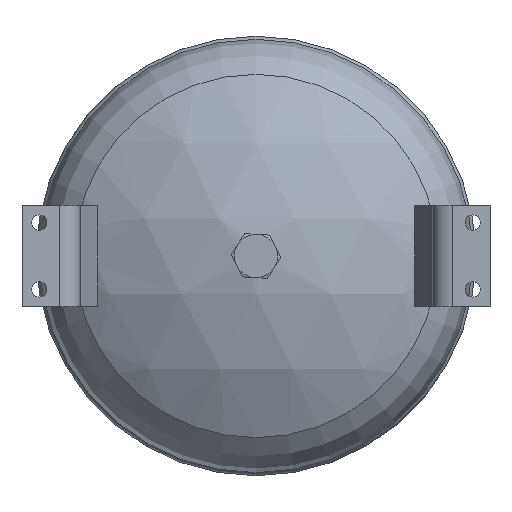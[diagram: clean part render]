
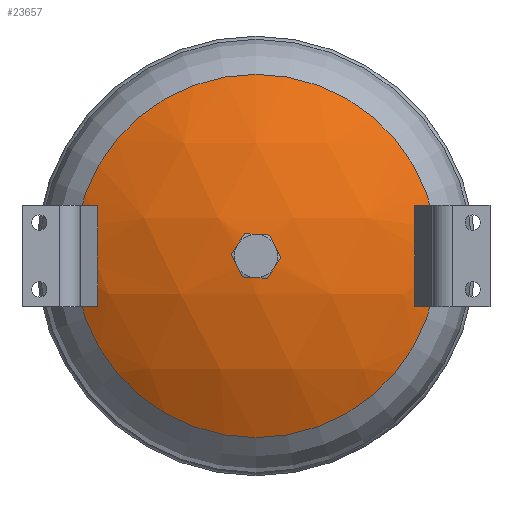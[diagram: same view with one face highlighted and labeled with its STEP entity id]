
A CAD part, front view. The second image highlights one B-rep face of the part: STEP entity #23657.
In plain terms, the highlighted spherical face has radius 244 mm.
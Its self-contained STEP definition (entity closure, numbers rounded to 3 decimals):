
#62=SPHERICAL_SURFACE('',#25314,244.);
#3997=FACE_BOUND('',#8151,.T.);
#3998=FACE_BOUND('',#8152,.T.);
#3999=FACE_BOUND('',#8153,.T.);
#6724=FACE_OUTER_BOUND('',#8150,.T.);
#8150=EDGE_LOOP('',(#21122));
#8151=EDGE_LOOP('',(#21123,#21124,#21125,#21126));
#8152=EDGE_LOOP('',(#21127,#21128,#21129,#21130));
#8153=EDGE_LOOP('',(#21131));
#8711=CIRCLE('',#25315,125.773);
#8712=CIRCLE('',#25316,243.161);
#8713=CIRCLE('',#25317,29.537);
#8714=CIRCLE('',#25318,242.363);
#8715=CIRCLE('',#25319,29.537);
#8716=CIRCLE('',#25320,243.161);
#8717=CIRCLE('',#25321,29.537);
#8718=CIRCLE('',#25322,242.363);
#8719=CIRCLE('',#25323,29.537);
#8720=CIRCLE('',#25324,10.);
#10948=VERTEX_POINT('',#50433);
#10949=VERTEX_POINT('',#50435);
#10950=VERTEX_POINT('',#50436);
#10951=VERTEX_POINT('',#50438);
#10952=VERTEX_POINT('',#50440);
#10953=VERTEX_POINT('',#50443);
#10954=VERTEX_POINT('',#50444);
#10955=VERTEX_POINT('',#50446);
#10956=VERTEX_POINT('',#50448);
#10957=VERTEX_POINT('',#50451);
#14383=EDGE_CURVE('',#10948,#10948,#8711,.T.);
#14384=EDGE_CURVE('',#10949,#10950,#8712,.T.);
#14385=EDGE_CURVE('',#10950,#10951,#8713,.T.);
#14386=EDGE_CURVE('',#10951,#10952,#8714,.T.);
#14387=EDGE_CURVE('',#10952,#10949,#8715,.T.);
#14388=EDGE_CURVE('',#10953,#10954,#8716,.T.);
#14389=EDGE_CURVE('',#10954,#10955,#8717,.T.);
#14390=EDGE_CURVE('',#10955,#10956,#8718,.T.);
#14391=EDGE_CURVE('',#10956,#10953,#8719,.T.);
#14392=EDGE_CURVE('',#10957,#10957,#8720,.T.);
#21122=ORIENTED_EDGE('',*,*,#14383,.T.);
#21123=ORIENTED_EDGE('',*,*,#14384,.T.);
#21124=ORIENTED_EDGE('',*,*,#14385,.T.);
#21125=ORIENTED_EDGE('',*,*,#14386,.T.);
#21126=ORIENTED_EDGE('',*,*,#14387,.T.);
#21127=ORIENTED_EDGE('',*,*,#14388,.T.);
#21128=ORIENTED_EDGE('',*,*,#14389,.T.);
#21129=ORIENTED_EDGE('',*,*,#14390,.T.);
#21130=ORIENTED_EDGE('',*,*,#14391,.T.);
#21131=ORIENTED_EDGE('',*,*,#14392,.T.);
#23657=ADVANCED_FACE('',(#6724,#3997,#3998,#3999),#62,.T.);
#25314=AXIS2_PLACEMENT_3D('',#50432,#30080,#30081);
#25315=AXIS2_PLACEMENT_3D('',#50434,#30082,#30083);
#25316=AXIS2_PLACEMENT_3D('',#50437,#30084,#30085);
#25317=AXIS2_PLACEMENT_3D('',#50439,#30086,#30087);
#25318=AXIS2_PLACEMENT_3D('',#50441,#30088,#30089);
#25319=AXIS2_PLACEMENT_3D('',#50442,#30090,#30091);
#25320=AXIS2_PLACEMENT_3D('',#50445,#30092,#30093);
#25321=AXIS2_PLACEMENT_3D('',#50447,#30094,#30095);
#25322=AXIS2_PLACEMENT_3D('',#50449,#30096,#30097);
#25323=AXIS2_PLACEMENT_3D('',#50450,#30098,#30099);
#25324=AXIS2_PLACEMENT_3D('',#50452,#30100,#30101);
#30080=DIRECTION('center_axis',(0.,0.,-1.));
#30081=DIRECTION('ref_axis',(1.,0.,0.));
#30082=DIRECTION('center_axis',(0.,-1.,0.));
#30083=DIRECTION('ref_axis',(-1.,0.,0.));
#30084=DIRECTION('center_axis',(0.927,-0.375,0.));
#30085=DIRECTION('ref_axis',(0.,0.,1.));
#30086=DIRECTION('center_axis',(0.375,0.927,0.));
#30087=DIRECTION('ref_axis',(0.,0.,-1.));
#30088=DIRECTION('center_axis',(-0.927,0.375,0.));
#30089=DIRECTION('ref_axis',(0.,0.,-1.));
#30090=DIRECTION('center_axis',(0.375,0.927,0.));
#30091=DIRECTION('ref_axis',(0.,0.,-1.));
#30092=DIRECTION('center_axis',(-0.927,-0.375,0.));
#30093=DIRECTION('ref_axis',(0.,0.,-1.));
#30094=DIRECTION('center_axis',(-0.375,0.927,0.));
#30095=DIRECTION('ref_axis',(0.,0.,-1.));
#30096=DIRECTION('center_axis',(0.927,0.375,0.));
#30097=DIRECTION('ref_axis',(0.,0.,1.));
#30098=DIRECTION('center_axis',(-0.375,0.927,0.));
#30099=DIRECTION('ref_axis',(0.,0.,-1.));
#30100=DIRECTION('center_axis',(0.,1.,0.));
#30101=DIRECTION('ref_axis',(-1.,0.,0.));
#50432=CARTESIAN_POINT('Origin',(0.,83.1,
0.));
#50433=CARTESIAN_POINT('',(-125.773,-125.986,0.));
#50434=CARTESIAN_POINT('Origin',(0.,-125.986,
0.));
#50435=CARTESIAN_POINT('',(-109.474,-133.897,21.537));
#50436=CARTESIAN_POINT('',(-109.474,-133.897,-21.537));
#50437=CARTESIAN_POINT('Origin',(-18.742,90.672,0.));
#50438=CARTESIAN_POINT('',(-116.891,-130.9,-8.741));
#50439=CARTESIAN_POINT('Origin',(-90.732,-141.469,0.));
#50440=CARTESIAN_POINT('',(-116.891,-130.9,8.741));
#50441=CARTESIAN_POINT('Origin',(-26.16,93.669,0.));
#50442=CARTESIAN_POINT('Origin',(-90.732,-141.469,0.));
#50443=CARTESIAN_POINT('',(109.474,-133.897,-21.537));
#50444=CARTESIAN_POINT('',(109.474,-133.897,21.537));
#50445=CARTESIAN_POINT('Origin',(18.742,90.672,0.));
#50446=CARTESIAN_POINT('',(116.891,-130.9,8.741));
#50447=CARTESIAN_POINT('Origin',(90.732,-141.469,0.));
#50448=CARTESIAN_POINT('',(116.891,-130.9,-8.741));
#50449=CARTESIAN_POINT('Origin',(26.16,93.669,0.));
#50450=CARTESIAN_POINT('Origin',(90.732,-141.469,0.));
#50451=CARTESIAN_POINT('',(10.,-160.695,0.));
#50452=CARTESIAN_POINT('Origin',(0.,-160.695,
0.));
